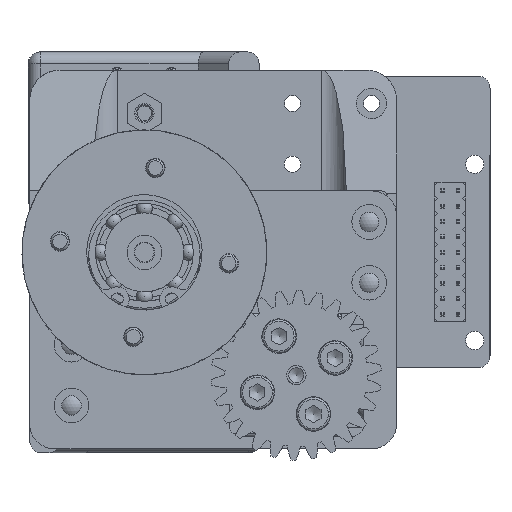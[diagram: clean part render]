
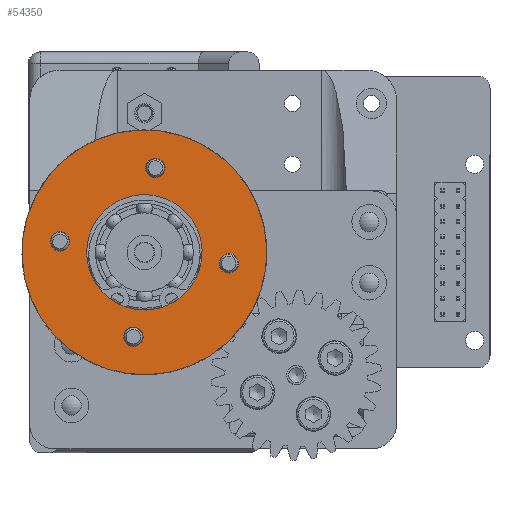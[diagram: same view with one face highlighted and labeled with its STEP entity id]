
A CAD part, front view. The second image highlights one B-rep face of the part: STEP entity #54350.
In plain terms, the highlighted planar face has unit normal (0, -1, 0) as drawn and (0, 0, 1) by its records, which use the part's own axes.
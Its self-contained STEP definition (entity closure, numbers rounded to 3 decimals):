
#2705=FACE_BOUND('',#10017,.T.);
#2706=FACE_BOUND('',#10018,.T.);
#2707=FACE_BOUND('',#10019,.T.);
#2708=FACE_BOUND('',#10020,.T.);
#2709=FACE_BOUND('',#10021,.T.);
#6617=FACE_OUTER_BOUND('',#10016,.T.);
#10016=EDGE_LOOP('',(#48458));
#10017=EDGE_LOOP('',(#48459));
#10018=EDGE_LOOP('',(#48460));
#10019=EDGE_LOOP('',(#48461));
#10020=EDGE_LOOP('',(#48462));
#10021=EDGE_LOOP('',(#48463));
#12330=CIRCLE('',#59848,20.141);
#12331=CIRCLE('',#59849,9.5);
#12332=CIRCLE('',#59850,1.6);
#12333=CIRCLE('',#59851,1.6);
#12334=CIRCLE('',#59852,1.6);
#12335=CIRCLE('',#59853,1.6);
#26593=VERTEX_POINT('',#99940);
#26594=VERTEX_POINT('',#99942);
#26595=VERTEX_POINT('',#99944);
#26596=VERTEX_POINT('',#99946);
#26597=VERTEX_POINT('',#99948);
#26598=VERTEX_POINT('',#99950);
#33976=EDGE_CURVE('',#26593,#26593,#12330,.T.);
#33977=EDGE_CURVE('',#26594,#26594,#12331,.T.);
#33978=EDGE_CURVE('',#26595,#26595,#12332,.T.);
#33979=EDGE_CURVE('',#26596,#26596,#12333,.T.);
#33980=EDGE_CURVE('',#26597,#26597,#12334,.T.);
#33981=EDGE_CURVE('',#26598,#26598,#12335,.T.);
#48458=ORIENTED_EDGE('',*,*,#33976,.T.);
#48459=ORIENTED_EDGE('',*,*,#33977,.T.);
#48460=ORIENTED_EDGE('',*,*,#33978,.T.);
#48461=ORIENTED_EDGE('',*,*,#33979,.T.);
#48462=ORIENTED_EDGE('',*,*,#33980,.T.);
#48463=ORIENTED_EDGE('',*,*,#33981,.T.);
#51426=PLANE('',#59847);
#54350=ADVANCED_FACE('',(#6617,#2705,#2706,#2707,#2708,#2709),#51426,.T.);
#59847=AXIS2_PLACEMENT_3D('',#99939,#74627,#74628);
#59848=AXIS2_PLACEMENT_3D('',#99941,#74629,#74630);
#59849=AXIS2_PLACEMENT_3D('',#99943,#74631,#74632);
#59850=AXIS2_PLACEMENT_3D('',#99945,#74633,#74634);
#59851=AXIS2_PLACEMENT_3D('',#99947,#74635,#74636);
#59852=AXIS2_PLACEMENT_3D('',#99949,#74637,#74638);
#59853=AXIS2_PLACEMENT_3D('',#99951,#74639,#74640);
#74627=DIRECTION('center_axis',(0.,0.,1.));
#74628=DIRECTION('ref_axis',(1.,0.,0.));
#74629=DIRECTION('center_axis',(0.,0.,1.));
#74630=DIRECTION('ref_axis',(1.,0.,0.));
#74631=DIRECTION('center_axis',(0.,0.,-1.));
#74632=DIRECTION('ref_axis',(-1.,0.,0.));
#74633=DIRECTION('center_axis',(0.,0.,-1.));
#74634=DIRECTION('ref_axis',(-1.,0.,0.));
#74635=DIRECTION('center_axis',(0.,0.,-1.));
#74636=DIRECTION('ref_axis',(-1.,0.,0.));
#74637=DIRECTION('center_axis',(0.,0.,-1.));
#74638=DIRECTION('ref_axis',(-1.,0.,0.));
#74639=DIRECTION('center_axis',(0.,0.,-1.));
#74640=DIRECTION('ref_axis',(-1.,0.,0.));
#99939=CARTESIAN_POINT('Origin',(0.,0.,11.));
#99940=CARTESIAN_POINT('',(20.141,0.,11.));
#99941=CARTESIAN_POINT('Origin',(0.,0.,11.));
#99942=CARTESIAN_POINT('',(-9.5,0.,11.));
#99943=CARTESIAN_POINT('Origin',(0.,0.,11.));
#99944=CARTESIAN_POINT('',(-14.,1.6,11.));
#99945=CARTESIAN_POINT('Origin',(-14.,0.,11.));
#99946=CARTESIAN_POINT('',(1.6,14.,11.));
#99947=CARTESIAN_POINT('Origin',(0.,14.,11.));
#99948=CARTESIAN_POINT('',(14.,-1.6,11.));
#99949=CARTESIAN_POINT('Origin',(14.,0.,11.));
#99950=CARTESIAN_POINT('',(-1.6,-14.,11.));
#99951=CARTESIAN_POINT('Origin',(0.,-14.,11.));
